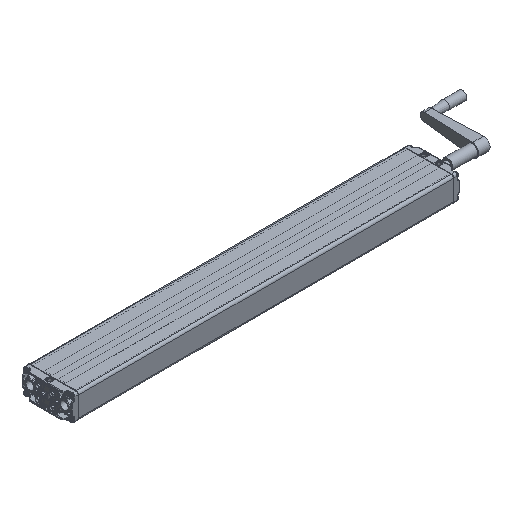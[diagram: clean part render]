
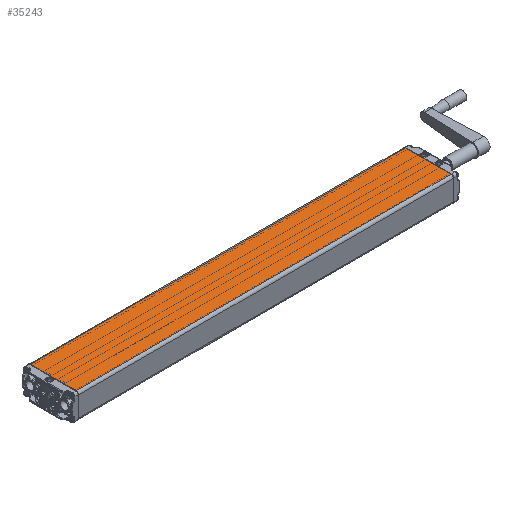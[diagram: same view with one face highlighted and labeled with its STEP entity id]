
A CAD part, isometric view. The second image highlights one B-rep face of the part: STEP entity #35243.
In plain terms, the highlighted planar face has unit normal (0, 0, 1).
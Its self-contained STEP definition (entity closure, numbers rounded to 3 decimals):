
#3660=LINE('',#75788,#5019);
#3661=LINE('',#75791,#5020);
#3662=LINE('',#75793,#5021);
#3663=LINE('',#75795,#5022);
#5019=VECTOR('',#43020,1000.);
#5020=VECTOR('',#43021,1000.);
#5021=VECTOR('',#43022,1000.);
#5022=VECTOR('',#43023,1000.);
#10629=ORIENTED_EDGE('',*,*,#16840,.T.);
#10630=ORIENTED_EDGE('',*,*,#16841,.T.);
#10631=ORIENTED_EDGE('',*,*,#16842,.T.);
#10632=ORIENTED_EDGE('',*,*,#16843,.T.);
#16840=EDGE_CURVE('',#20204,#20205,#3660,.F.);
#16841=EDGE_CURVE('',#20205,#20206,#3661,.T.);
#16842=EDGE_CURVE('',#20206,#20207,#3662,.T.);
#16843=EDGE_CURVE('',#20207,#20204,#3663,.F.);
#20204=VERTEX_POINT('',#75789);
#20205=VERTEX_POINT('',#75790);
#20206=VERTEX_POINT('',#75792);
#20207=VERTEX_POINT('',#75794);
#23875=EDGE_LOOP('',(#10629,#10630,#10631,#10632));
#25983=FACE_BOUND('',#23875,.T.);
#27169=PLANE('',#37682);
#35243=ADVANCED_FACE('',(#25983),#27169,.T.);
#37682=AXIS2_PLACEMENT_3D('',#75787,#43018,#43019);
#43018=DIRECTION('',(0.,0.,1.));
#43019=DIRECTION('',(1.,0.,0.));
#43020=DIRECTION('',(0.,-1.,0.));
#43021=DIRECTION('',(-1.,0.,0.));
#43022=DIRECTION('',(0.,-1.,0.));
#43023=DIRECTION('',(-1.,0.,0.));
#75787=CARTESIAN_POINT('',(60.,893.5,30.));
#75788=CARTESIAN_POINT('',(54.,893.5,30.));
#75789=CARTESIAN_POINT('',(54.,0.5,30.));
#75790=CARTESIAN_POINT('',(54.,893.,30.));
#75791=CARTESIAN_POINT('',(60.,893.,30.));
#75792=CARTESIAN_POINT('',(-54.,893.,30.));
#75793=CARTESIAN_POINT('',(-54.,893.5,30.));
#75794=CARTESIAN_POINT('',(-54.,0.5,30.));
#75795=CARTESIAN_POINT('',(54.,0.5,30.));
